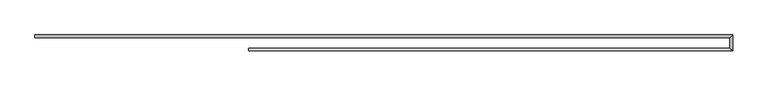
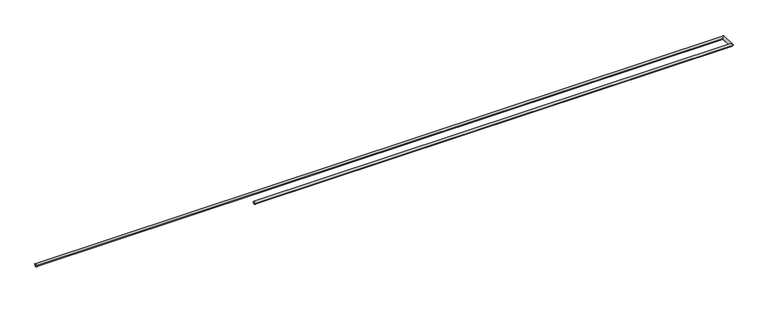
"""IFC4 building model written with IfcOpenShell, lengths in millimetres: railing geometry, Corrimão em aço."""

from ifc_helpers import new_model, si_unit, frame, origin, place, context, project, spatial, circle_curve, ellipse_curve, source, transform, mapped, element, save
from ifc_brep_helpers import plane_surface, cylinder_surface, advanced_brep


def railing_a30127fa(model_context):
    return source(origin(), model_context, "Body", "AdvancedBrep", [
        advanced_brep(
        [(-12174.342202, -9497.0637549, 880.0), (-12174.342202, -9537.0637549, 880.0), (-1697.3834094, -9497.0637549, 880.0), (-1737.3834094, -9537.0637549, 880.0), (-1697.3834094, -9737.0637549, 880.0), (-1737.3834094, -9697.0637549, 880.0), (-8967.3834094, -9737.0637549, 880.0), (-8967.3834094, -9697.0637549, 880.0)],
        [
            (0, 1, circle_curve(frame((-12174.342202, -9517.0637549, 880.0), z_axis=(-1.0, 0.0, 0.0), x_axis=(0.0, -1.0, 0.0)), 20.0)),
            (1, 0, circle_curve(frame((-12174.342202, -9517.0637549, 880.0), z_axis=(-1.0, 0.0, 0.0), x_axis=(0.0, -1.0, 0.0)), 20.0)),
            (0, 2),
            (2, 3, ellipse_curve(frame((-1717.3834094, -9517.0637549, 880.0), z_axis=(-0.7071067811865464, 0.7071067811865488, 0.0), x_axis=(-0.7071067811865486, -0.7071067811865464, 0.0)), 28.2842712, 20.0)),
            (3, 1),
            (3, 2, ellipse_curve(frame((-1717.3834094, -9517.0637549, 880.0), z_axis=(-0.7071067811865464, 0.7071067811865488, 0.0), x_axis=(-0.7071067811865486, -0.7071067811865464, 0.0)), 28.2842712, 20.0)),
            (2, 4),
            (4, 5, ellipse_curve(frame((-1717.3834094, -9717.0637549, 880.0), z_axis=(0.7071067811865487, 0.7071067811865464, 0.0), x_axis=(-0.7071067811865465, 0.7071067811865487, 0.0)), 28.2842712, 20.0)),
            (5, 3),
            (5, 4, ellipse_curve(frame((-1717.3834094, -9717.0637549, 880.0), z_axis=(0.7071067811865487, 0.7071067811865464, 0.0), x_axis=(-0.7071067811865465, 0.7071067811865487, 0.0)), 28.2842712, 20.0)),
            (6, 7, circle_curve(frame((-8967.3834094, -9717.0637549, 880.0), z_axis=(-1.0, 0.0, 0.0), x_axis=(0.0, 1.0, 0.0)), 20.0)),
            (7, 6, circle_curve(frame((-8967.3834094, -9717.0637549, 880.0), z_axis=(-1.0, 0.0, 0.0), x_axis=(0.0, 1.0, 0.0)), 20.0)),
            (4, 6),
            (7, 5),
        ],
        [
            plane_surface(frame((-12174.342202, -9517.0637549, 900.0), z_axis=(-1.0, 0.0, 0.0), x_axis=(0.0, 1.0, 0.0))),
            cylinder_surface(frame((-12174.342202, -9517.0637549, 880.0), z_axis=(-1.0, 0.0, 0.0), x_axis=(0.0, -1.0, 0.0)), 20.0),
            cylinder_surface(frame((-1717.3834094, -9517.0637549, 880.0), z_axis=(0.0, 1.0, 0.0), x_axis=(-1.0, 0.0, 0.0)), 20.0),
            plane_surface(frame((-8967.3834094, -9717.0637549, 900.0), z_axis=(-1.0, 0.0, 0.0), x_axis=(0.0, -1.0, 0.0))),
            cylinder_surface(frame((-1717.3834094, -9717.0637549, 880.0), z_axis=(1.0, 0.0, 0.0), x_axis=(0.0, 1.0, 0.0)), 20.0),
        ],
        [
            (0, [[1, 2]]),
            (1, [[-1, 3, 4, 5]]),
            (1, [[-2, -5, 6, -3]]),
            (2, [[-4, 7, 8, 9]]),
            (2, [[-6, -9, 10, -7]]),
            (3, [[11, 12]]),
            (4, [[-8, 13, -12, 14]]),
            (4, [[-10, -14, -11, -13]]),
        ],
    ),
    ])


if __name__ == "__main__":
    model = new_model("IFC4")
    model_context = context("Model", 3, world=origin())
    ifc_project = project(units=[si_unit("LENGTHUNIT", "METRE", prefix="MILLI")], contexts=[model_context])
    site = spatial("IfcSite", under=ifc_project)
    building = spatial("IfcBuilding", under=site)
    placement = place(None, origin())
    railing_shape = railing_a30127fa(model_context)
    element("IfcRailing", 1, ObjectType="Corrimão em aço", at=placement, inside=building, context=model_context, shape_type="MappedRepresentation", body=[
        mapped(railing_shape, transform((0.0, 0.0, 0.0), x_axis=(1.0, 0.0, 0.0), y_axis=(0.0, 1.0, 0.0), z_axis=(0.0, 0.0, 1.0))),
    ])
    save(model, "model.ifc")
